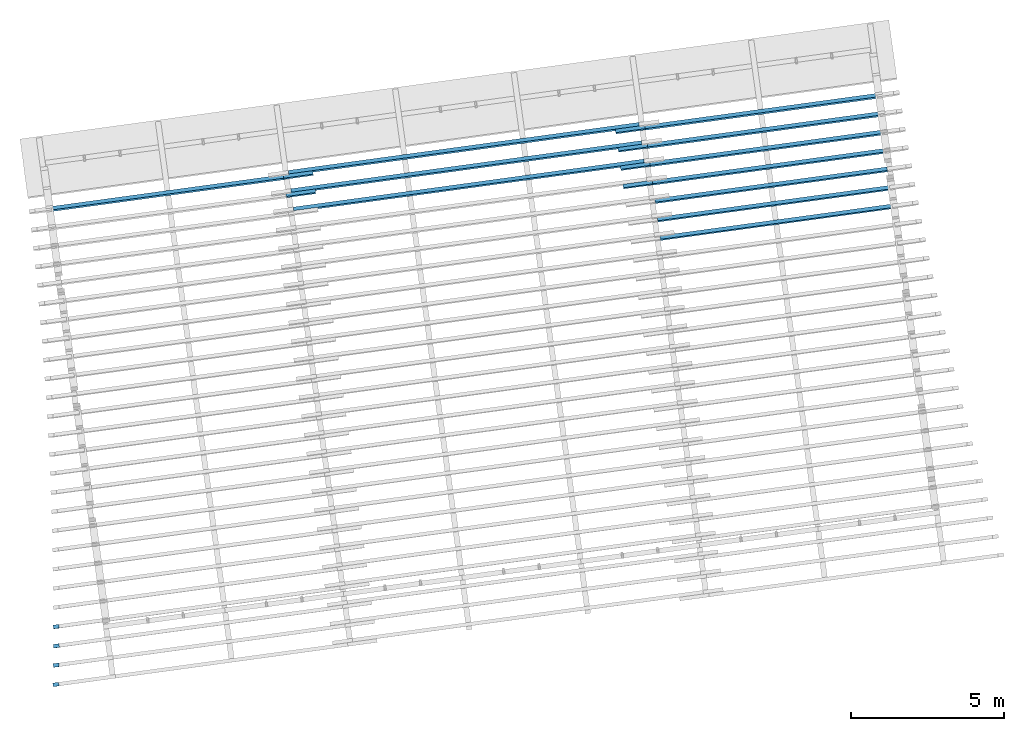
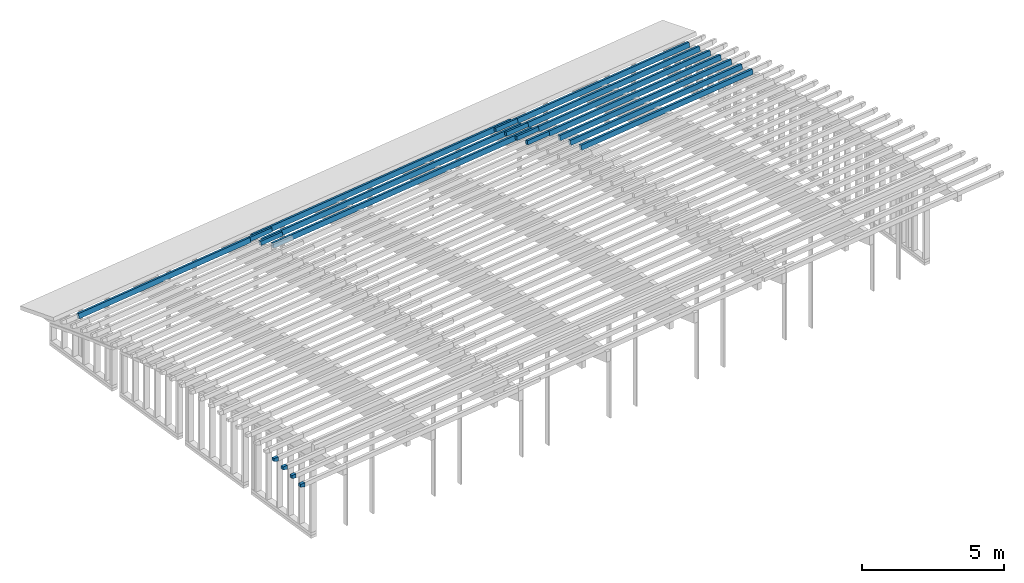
# One storey, part 13 of 18: 21 building element parts, 16 elements without a shape of their own.
"""IFC2X3 building model written with IfcOpenShell, lengths in metres."""

from ifc_helpers import new_model, entity, si_unit, converted_unit, derived_unit, money_unit, direction, frame, origin_with_axes, place, context, subcontext, project, spatial, faceted_brep, material, type_object, element, aggregate, save


model = new_model("IFC2X3")

# Units and contexts
model_context = context("Model", 3, precision=1e-05, world=origin_with_axes(), true_north=direction((0.0, 1.0)))
body_context = subcontext(model_context, "Body", "Model", "MODEL_VIEW")
ifc_project = project(units=[si_unit("LENGTHUNIT", "METRE"), si_unit("AREAUNIT", "SQUARE_METRE"), si_unit("VOLUMEUNIT", "CUBIC_METRE"), converted_unit("PLANEANGLEUNIT", "DEGREE", entity("IfcPlaneAngleMeasure", 0.0174532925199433), si_unit("PLANEANGLEUNIT", "RADIAN"), dimensions=[0, 0, 0, 0, 0, 0, 0]), money_unit("EUR"), converted_unit("TIMEUNIT", "Year", entity("IfcTimeMeasure", 31557600.0), si_unit("TIMEUNIT", "SECOND"), dimensions=[0, 0, 1, 0, 0, 0, 0]), si_unit("MASSUNIT", "GRAM", prefix="KILO"), si_unit("THERMODYNAMICTEMPERATUREUNIT", "DEGREE_CELSIUS"), si_unit("LUMINOUSINTENSITYUNIT", "LUMEN"), si_unit("ENERGYUNIT", "JOULE", prefix="MEGA"), derived_unit("THERMALCONDUCTANCEUNIT", [(si_unit("POWERUNIT", "WATT"), 1), (si_unit("LENGTHUNIT", "METRE"), -1), (si_unit("THERMODYNAMICTEMPERATUREUNIT", "KELVIN"), -1)]), derived_unit("SPECIFICHEATCAPACITYUNIT", [(si_unit("ENERGYUNIT", "JOULE"), 1), (si_unit("MASSUNIT", "GRAM", prefix="KILO"), -1), (si_unit("THERMODYNAMICTEMPERATUREUNIT", "KELVIN"), -1)]), derived_unit("MASSDENSITYUNIT", [(si_unit("MASSUNIT", "GRAM", prefix="KILO"), 1), (si_unit("VOLUMEUNIT", "CUBIC_METRE"), -1)])], contexts=[model_context])

# Site, building, storey
site_placement = place(None, origin_with_axes())
site = spatial("IfcSite", under=ifc_project, at=site_placement, Name="Gelände", CompositionType="ELEMENT")
building_placement = place(site_placement, origin_with_axes())
building = spatial("IfcBuilding", under=site, at=building_placement, Name="Gebäude", CompositionType="ELEMENT")
storey_placement = place(building_placement, frame((0.0, 0.0, 5.5), z_axis=(0.0, 0.0, 1.0), x_axis=(1.0, 0.0, 0.0)))
storey = spatial("IfcBuildingStorey", under=building, at=storey_placement, Name="OG", CompositionType="ELEMENT", Elevation=5.5)

# Beam, building element part
beam_type_1 = type_object("IfcBeamType", Name="Verschiedene Strukturen - 4 Segmente - 120 x 200 x 9378 (970+7659+559+190)", PredefinedType="NOTDEFINED")
beam_1_placement = place(storey_placement, frame((93.40531435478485, -136.7346083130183, 3.04127648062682), z_axis=(0.0, 0.0, 1.0), x_axis=(-0.1357111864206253, 0.9907484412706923, 0.0)))
beam_1 = element("IfcBeam", 1, at=beam_1_placement, inside=storey, type_object=beam_type_1, Name="Unterzug-031")
ifc_material = material(Name="Bauholz")
building_element_part_1_placement = place(beam_1_placement, origin_with_axes())
building_element_part_1 = element("IfcBuildingElementPart", 2, at=building_element_part_1_placement, material=ifc_material, Name="Bauholz", context=body_context, shape_type="Brep", body=[
    faceted_brep([(0.05806055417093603, 0.0, -0.01513182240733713), (0.05806055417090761, 0.9699999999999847, -0.01513182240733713), (-0.05806055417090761, 0.9699999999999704, 0.01513182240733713), (-0.05806055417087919, 0.0, 0.01513182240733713), (0.01770902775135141, 0.0, -0.1699599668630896), (0.01770902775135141, 0.9699999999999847, -0.1699599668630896), (-0.0984120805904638, 0.9699999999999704, -0.1396963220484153), (-0.0984120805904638, 0.0, -0.1396963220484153)], [[[0, 1, 2, 3]], [[4, 5, 1, 0]], [[2, 1, 5, 6]], [[3, 2, 6, 7]], [[4, 0, 3, 7]], [[7, 6, 5, 4]]]),
])
aggregate(beam_1, [building_element_part_1])

# Beam, building element parts
beam_type_2 = type_object("IfcBeamType", Name="Verschiedene Strukturen - 4 Segmente - 120 x 200 x 9364 (970+7659+545+190)", PredefinedType="NOTDEFINED")
beam_2_placement = place(storey_placement, frame((93.32324404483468, -136.1354607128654, 2.882507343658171), z_axis=(0.0, 0.0, 1.0), x_axis=(-0.1357111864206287, 0.9907484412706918, 0.0)))
beam_2 = element("IfcBeam", 3, at=beam_2_placement, inside=storey, type_object=beam_type_2, Name="Unterzug-031")
building_element_part_2_placement = place(beam_2_placement, origin_with_axes())
building_element_part_2 = element("IfcBuildingElementPart", 4, at=building_element_part_2_placement, material=ifc_material, Name="Bauholz", context=body_context, shape_type="Brep", body=[
    faceted_brep([(0.05789720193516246, 0.0, -0.01574528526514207), (0.05789720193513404, 0.9699999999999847, -0.01574528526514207), (-0.05789720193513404, 0.9699999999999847, 0.01574528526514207), (-0.05789720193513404, 0.0, 0.01574528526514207), (0.01590977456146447, 0.0, -0.1701378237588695), (0.01590977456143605, 0.9699999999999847, -0.1701378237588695), (-0.09988462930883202, 0.9699999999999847, -0.1386472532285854), (-0.09988462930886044, 0.0, -0.1386472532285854)], [[[0, 1, 2, 3]], [[4, 5, 1, 0]], [[2, 1, 5, 6]], [[3, 2, 6, 7]], [[4, 0, 3, 7]], [[7, 6, 5, 4]]]),
])
building_element_part_3_placement = place(beam_2_placement, origin_with_axes())
building_element_part_3 = element("IfcBuildingElementPart", 5, at=building_element_part_3_placement, material=ifc_material, Name="Bauholz", context=body_context, shape_type="Brep", body=[
    faceted_brep([(-0.09988659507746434, 4.732803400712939, -0.1386544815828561), (-0.0998865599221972, 4.852803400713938, -0.1386543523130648), (-0.057896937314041, 4.852803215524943, 0.01574528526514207), (-0.05789720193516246, 8.629105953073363, 0.01574528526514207), (-0.1103814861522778, 8.629105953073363, -0.1772453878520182), (-0.1103814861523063, 0.9700000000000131, -0.1772453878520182), (-0.05789720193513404, 0.9699999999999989, 0.01574528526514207), (-0.05789746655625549, 4.732803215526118, 0.01574528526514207), (-0.09974600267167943, 4.852803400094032, -0.1386911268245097), (-0.09974653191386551, 4.732803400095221, -0.1386911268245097), (0.05789720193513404, 0.9700000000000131, -0.01574528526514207), (0.05789693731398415, 4.732805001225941, -0.01574528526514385), (0.05789746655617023, 4.852805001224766, -0.01574528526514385), (0.05789720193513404, 8.62910595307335, -0.01574528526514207), (0.005412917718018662, 8.629105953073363, -0.2087359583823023), (0.005412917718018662, 0.9699999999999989, -0.2087359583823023), (0.01590978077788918, 4.852805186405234, -0.1701378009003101), (0.01590974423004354, 4.732805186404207, -0.1701379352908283), (0.01571097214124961, 4.732805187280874, -0.1700837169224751), (0.01571150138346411, 4.852805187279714, -0.1700837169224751)], [[[0, 1, 2, 3, 4, 5, 6, 7]], [[8, 1, 0, 9]], [[8, 2, 1]], [[3, 2, 7, 6, 10, 11, 12, 13]], [[14, 4, 3, 13]], [[14, 15, 5, 4]], [[6, 5, 15, 10]], [[9, 0, 7]], [[7, 2, 8, 9]], [[10, 15, 14, 13, 12, 16, 17, 11]], [[12, 11, 18, 19]], [[19, 16, 12]], [[17, 16, 19, 18]], [[18, 11, 17]]]),
])
aggregate(beam_2, [building_element_part_2, building_element_part_3])

# Beam, building element part
beam_type_3 = type_object("IfcBeamType", Name="Verschiedene Strukturen - 4 Segmente - 120 x 200 x 10509 (970+7659+1690+190)", PredefinedType="NOTDEFINED")
beam_3_placement = place(storey_placement, frame((95.24989773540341, -150.2008387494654, 4.960992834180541), z_axis=(0.0, 0.0, 1.0), x_axis=(-0.1357111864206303, 0.9907484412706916, 0.0)))
beam_3 = element("IfcBeam", 6, at=beam_3_placement, inside=storey, type_object=beam_type_3, Name="Unterzug-031")
building_element_part_4_placement = place(beam_3_placement, origin_with_axes())
building_element_part_4 = element("IfcBuildingElementPart", 7, at=building_element_part_4_placement, material=ifc_material, Name="Bauholz", context=body_context, shape_type="Brep", body=[
    faceted_brep([(-0.05997481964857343, 10.50900000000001, 0.001738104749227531), (-0.05997481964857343, 10.31900000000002, 0.001738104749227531), (0.05997481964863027, 10.31900000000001, -0.001738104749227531), (0.05997481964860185, 10.50900000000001, -0.001738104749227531), (-0.06345102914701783, 10.509, -0.1182115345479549), (-0.06518913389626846, 10.31900000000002, -0.1781863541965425), (0.05476050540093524, 10.31900000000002, -0.1816625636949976), (0.05649861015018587, 10.50900000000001, -0.1216877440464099)], [[[0, 1, 2, 3]], [[4, 5, 1, 0]], [[5, 6, 2, 1]], [[3, 2, 6, 7]], [[4, 0, 3, 7]], [[7, 6, 5, 4]]]),
])
aggregate(beam_3, [building_element_part_4])

beam_type_4 = type_object("IfcBeamType", Name="Verschiedene Strukturen - 4 Segmente - 120 x 200 x 10600 (970+7659+1781+190)", PredefinedType="NOTDEFINED")
beam_4_placement = place(storey_placement, frame((95.33472849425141, -150.8201387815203, 4.975930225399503), z_axis=(0.0, 0.0, 1.0), x_axis=(-0.1357111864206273, 0.990748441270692, 0.0)))
beam_4 = element("IfcBeam", 8, at=beam_4_placement, inside=storey, type_object=beam_type_4, Name="Unterzug-031")
building_element_part_5_placement = place(beam_4_placement, origin_with_axes())
building_element_part_5 = element("IfcBuildingElementPart", 9, at=building_element_part_5_placement, material=ifc_material, Name="Bauholz", context=body_context, shape_type="Brep", body=[
    faceted_brep([(-0.05999011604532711, 10.59999999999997, 0.001089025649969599), (-0.05999011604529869, 10.40999999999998, 0.001089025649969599), (0.05999011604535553, 10.40999999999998, -0.001089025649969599), (0.05999011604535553, 10.59999999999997, -0.001089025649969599), (-0.06216816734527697, 10.59999999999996, -0.1188912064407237), (-0.0632571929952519, 10.40999999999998, -0.1788813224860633), (0.05672303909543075, 10.40999999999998, -0.1810593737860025), (0.05781206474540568, 10.59999999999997, -0.1210692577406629)], [[[0, 1, 2, 3]], [[4, 5, 1, 0]], [[5, 6, 2, 1]], [[3, 2, 6, 7]], [[4, 0, 3, 7]], [[7, 6, 5, 4]]]),
])
aggregate(beam_4, [building_element_part_5])

beam_type_5 = type_object("IfcBeamType", Name="Verschiedene Strukturen - 4 Segmente - 120 x 200 x 10694 (970+7659+1875+190)", PredefinedType="NOTDEFINED")
beam_5_placement = place(storey_placement, frame((95.419430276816, -151.4384972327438, 4.984403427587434), z_axis=(0.0, 0.0, 1.0), x_axis=(-0.1357111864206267, 0.9907484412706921, 0.0)))
beam_5 = element("IfcBeam", 10, at=beam_5_placement, inside=storey, type_object=beam_type_5, Name="Unterzug-031")
building_element_part_6_placement = place(beam_5_placement, origin_with_axes())
building_element_part_6 = element("IfcBuildingElementPart", 11, at=building_element_part_6_placement, material=ifc_material, Name="Bauholz", context=body_context, shape_type="Brep", body=[
    faceted_brep([(-0.05999703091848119, 10.69400000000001, 0.0005968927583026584), (-0.05999703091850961, 10.504, 0.0005968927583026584), (0.05999703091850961, 10.50399999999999, -0.0005968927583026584), (0.05999703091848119, 10.69400000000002, -0.0005968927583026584), (-0.06119081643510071, 10.694, -0.1193971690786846), (-0.06178770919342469, 10.50399999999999, -0.1793941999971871), (0.05820635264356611, 10.50399999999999, -0.1805879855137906), (0.05880324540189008, 10.69400000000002, -0.1205909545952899)], [[[0, 1, 2, 3]], [[4, 5, 1, 0]], [[5, 6, 2, 1]], [[3, 2, 6, 7]], [[4, 0, 3, 7]], [[7, 6, 5, 4]]]),
])
aggregate(beam_5, [building_element_part_6])

beam_type_6 = type_object("IfcBeamType", Name="Verschiedene Strukturen - 3 Segmente - 120 x 200 x 12890 (660+11570+660)", PredefinedType="NOTDEFINED")
beam_6_placement = place(storey_placement, frame((91.86899275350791, -136.217618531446, 2.851585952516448), z_axis=(0.0, 0.0, 1.0), x_axis=(0.1357111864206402, -0.9907484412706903, 0.0)))
beam_6 = element("IfcBeam", 12, at=beam_6_placement, inside=storey, type_object=beam_type_6, Name="Unterzug-031")
building_element_part_7_placement = place(beam_6_placement, origin_with_axes())
building_element_part_7 = element("IfcBuildingElementPart", 13, at=building_element_part_7_placement, material=ifc_material, Name="Bauholz", context=body_context, shape_type="Brep", body=[
    faceted_brep([(0.1103814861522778, 12.22957971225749, -0.1772453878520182), (0.1103814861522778, 0.660000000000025, -0.1772453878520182), (-0.00541291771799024, 0.6600000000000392, -0.2087359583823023), (-0.00541291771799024, 12.2295797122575, -0.2087359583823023), (0.05789720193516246, 12.2295797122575, 0.01574528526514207), (0.05789720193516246, 0.6600000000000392, 0.01574528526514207), (-0.05789720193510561, 0.660000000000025, -0.01574528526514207), (-0.05789720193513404, 12.2295797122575, -0.01574528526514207)], [[[0, 1, 2, 3]], [[4, 5, 1, 0]], [[1, 5, 6, 2]], [[3, 2, 6, 7]], [[7, 4, 0, 3]], [[7, 6, 5, 4]]]),
])
aggregate(beam_6, [building_element_part_7])

beam_7_placement = place(storey_placement, frame((91.9510223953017, -136.816469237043, 3.011503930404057), z_axis=(0.0, 0.0, 1.0), x_axis=(0.1357111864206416, -0.9907484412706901, 0.0)))
beam_7 = element("IfcBeam", 14, at=beam_7_placement, inside=storey, type_object=beam_type_6, Name="Unterzug-031")
building_element_part_8_placement = place(beam_7_placement, origin_with_axes())
building_element_part_8 = element("IfcBuildingElementPart", 15, at=building_element_part_8_placement, material=ifc_material, Name="Bauholz", context=body_context, shape_type="Brep", body=[
    faceted_brep([(0.1084999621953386, 12.22957971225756, -0.1784033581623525), (0.1084999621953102, 0.6600000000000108, -0.1784033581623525), (-0.007621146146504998, 0.660000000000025, -0.2086670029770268), (-0.007621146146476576, 12.22957971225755, -0.2086670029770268), (0.05806055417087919, 12.22957971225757, 0.01513182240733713), (0.05806055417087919, 0.6600000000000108, 0.01513182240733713), (-0.05806055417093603, 0.660000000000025, -0.01513182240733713), (-0.05806055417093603, 12.22957971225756, -0.01513182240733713)], [[[0, 1, 2, 3]], [[4, 5, 1, 0]], [[1, 5, 6, 2]], [[3, 2, 6, 7]], [[7, 4, 0, 3]], [[7, 6, 5, 4]]]),
])
aggregate(beam_7, [building_element_part_8])

beam_8_placement = place(storey_placement, frame((92.03326752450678, -137.4168930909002, 3.165295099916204), z_axis=(0.0, 0.0, 1.0), x_axis=(0.1357111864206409, -0.9907484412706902, 0.0)))
beam_8 = element("IfcBeam", 16, at=beam_8_placement, inside=storey, type_object=beam_type_6, Name="Unterzug-031")
building_element_part_9_placement = place(beam_8_placement, origin_with_axes())
building_element_part_9 = element("IfcBuildingElementPart", 17, at=building_element_part_9_placement, material=ifc_material, Name="Bauholz", context=body_context, shape_type="Brep", body=[
    faceted_brep([(0.1066053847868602, 12.22957971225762, -0.1795418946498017), (0.1066053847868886, 0.6600000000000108, -0.1795418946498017), (-0.009829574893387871, 0.6599999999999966, -0.2085746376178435), (-0.009829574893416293, 12.2295797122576, -0.2085746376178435), (0.05821747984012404, 12.2295797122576, 0.01451637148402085), (0.05821747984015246, 0.6600000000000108, 0.01451637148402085), (-0.05821747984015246, 0.6599999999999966, -0.01451637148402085), (-0.05821747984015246, 12.2295797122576, -0.01451637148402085)], [[[0, 1, 2, 3]], [[4, 5, 1, 0]], [[1, 5, 6, 2]], [[3, 2, 6, 7]], [[7, 4, 0, 3]], [[7, 6, 5, 4]]]),
])
aggregate(beam_8, [building_element_part_9])

beam_type_7 = type_object("IfcBeamType", Name="Verschiedene Strukturen - 4 Segmente - 120 x 200 x 10426 (970+7659+1607+190)", PredefinedType="NOTDEFINED")
beam_9_placement = place(storey_placement, frame((95.1650979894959, -149.5817651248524, 4.939661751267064), z_axis=(0.0, 0.0, 1.0), x_axis=(-0.1357111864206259, 0.9907484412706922, 0.0)))
beam_9 = element("IfcBeam", 18, at=beam_9_placement, inside=storey, type_object=beam_type_7, Name="Unterzug-031")
building_element_part_10_placement = place(beam_9_placement, origin_with_axes())
building_element_part_10 = element("IfcBuildingElementPart", 19, at=building_element_part_10_placement, material=ifc_material, Name="Bauholz", context=body_context, shape_type="Brep", body=[
    faceted_brep([(-0.05995537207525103, 10.42626930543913, 0.002313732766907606), (-0.05995537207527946, 10.23626930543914, 0.002313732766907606), (0.05995537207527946, 10.23626930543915, -0.002313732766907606), (0.05995537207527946, 10.42626930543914, -0.002313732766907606), (-0.06458283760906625, 10.42626930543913, -0.1175970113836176), (-0.06689657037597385, 10.23626930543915, -0.1775523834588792), (0.05301417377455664, 10.23626930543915, -0.1821798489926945), (0.05532790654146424, 10.42626930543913, -0.1222244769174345)], [[[0, 1, 2, 3]], [[4, 5, 1, 0]], [[5, 6, 2, 1]], [[3, 2, 6, 7]], [[4, 0, 3, 7]], [[7, 6, 5, 4]]]),
])
aggregate(beam_9, [building_element_part_10])

beam_type_8 = type_object("IfcBeamType", Name="Verschiedene Strukturen - 4 Segmente - 120 x 200 x 9492 (970+7659+673+190)", PredefinedType="NOTDEFINED")
beam_10_placement = place(storey_placement, frame((103.7120060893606, -138.3973520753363, 3.742971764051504), z_axis=(0.0, 0.0, 1.0), x_axis=(0.135711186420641, -0.9907484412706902, 0.0)))
beam_10 = element("IfcBeam", 20, at=beam_10_placement, inside=storey, type_object=beam_type_8, Name="Unterzug-031")
building_element_part_11_placement = place(beam_10_placement, origin_with_axes())
building_element_part_11 = element("IfcBuildingElementPart", 21, at=building_element_part_11_placement, material=ifc_material, Name="Bauholz", context=body_context, shape_type="Brep", body=[
    faceted_brep([(-0.01864872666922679, 8.629193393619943, -0.2079716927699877), (-0.01864872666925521, 0.9699999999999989, -0.2079716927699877), (-0.05877861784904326, 0.9699999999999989, -0.01204467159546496), (-0.05877998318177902, 4.732937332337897, -0.01203929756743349), (-0.02667467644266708, 4.732937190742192, -0.1687864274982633), (-0.02667465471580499, 4.852937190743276, -0.1687865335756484), (-0.05877945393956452, 4.852937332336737, -0.01203929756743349), (-0.0587797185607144, 8.629193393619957, -0.01203929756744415), (0.09891071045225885, 8.629193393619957, -0.1838930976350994), (0.09891071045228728, 0.9700000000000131, -0.1838930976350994), (0.05877971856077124, 0.9700000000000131, 0.01203929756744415), (0.05877998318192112, 4.852939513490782, 0.01203929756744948), (0.05877971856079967, 8.629193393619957, 0.01203929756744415), (0.05877945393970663, 4.732939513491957, 0.01203929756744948), (-0.02617685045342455, 4.732937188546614, -0.1686823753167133), (-0.02617632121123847, 4.852937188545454, -0.1686823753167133), (0.09088517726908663, 4.852939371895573, -0.1447098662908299), (0.09088515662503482, 4.732939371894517, -0.1447097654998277), (0.09068224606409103, 4.852939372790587, -0.144750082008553), (0.09068171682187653, 4.732939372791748, -0.144750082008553)], [[[0, 1, 2, 3, 4, 5, 6, 7]], [[1, 0, 8, 9]], [[2, 1, 9, 10]], [[11, 12, 7, 6, 3, 2, 10, 13]], [[4, 3, 14]], [[4, 14, 15, 5]], [[6, 5, 15]], [[8, 0, 7, 12]], [[10, 9, 8, 12, 11, 16, 17, 13]], [[6, 15, 14, 3]], [[18, 11, 13, 19]], [[16, 11, 18]], [[18, 19, 17, 16]], [[13, 17, 19]]]),
])
aggregate(beam_10, [building_element_part_11])

beam_type_9 = type_object("IfcBeamType", Name="Verschiedene Strukturen - 4 Segmente - 120 x 200 x 9437 (970+7659+617+190)", PredefinedType="NOTDEFINED")
beam_11_placement = place(storey_placement, frame((103.5460778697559, -137.1860066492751, 3.480744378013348), z_axis=(0.0, 0.0, 1.0), x_axis=(0.1357111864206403, -0.9907484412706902, 0.0)))
beam_11 = element("IfcBeam", 22, at=beam_11_placement, inside=storey, type_object=beam_type_9, Name="Unterzug-031")
building_element_part_12_placement = place(beam_11_placement, origin_with_axes())
building_element_part_12 = element("IfcBuildingElementPart", 23, at=building_element_part_12_placement, material=ifc_material, Name="Bauholz", context=body_context, shape_type="Brep", body=[
    faceted_brep([(-0.01424225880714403, 8.629193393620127, -0.2083198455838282), (-0.01424225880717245, 0.9700000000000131, -0.2083198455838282), (-0.05851170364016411, 0.9700000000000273, -0.01328083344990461), (-0.05851196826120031, 4.732937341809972, -0.01328083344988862), (-0.02309603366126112, 4.732937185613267, -0.1693125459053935), (-0.02309600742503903, 4.852937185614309, -0.1693126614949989), (-0.05851143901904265, 4.852937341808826, -0.01328083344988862), (-0.05851170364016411, 8.629193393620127, -0.01328083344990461), (0.1027811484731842, 8.629193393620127, -0.1817581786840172), (0.1027811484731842, 0.9700000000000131, -0.1817581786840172), (0.05851170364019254, 0.9700000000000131, 0.01328083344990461), (0.05851196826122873, 4.852939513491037, 0.01328083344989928), (0.05851170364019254, 8.629193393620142, 0.01328083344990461), (0.05851143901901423, 4.732939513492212, 0.01328083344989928), (-0.02280931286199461, 4.732937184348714, -0.1692466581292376), (-0.02280878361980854, 4.852937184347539, -0.1692466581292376), (0.09392822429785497, 4.852939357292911, -0.142754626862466), (0.09392819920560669, 4.732939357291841, -0.1427545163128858), (0.09357829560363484, 4.85293935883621, -0.142831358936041), (0.09357776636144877, 4.73293935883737, -0.142831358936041)], [[[0, 1, 2, 3, 4, 5, 6, 7]], [[1, 0, 8, 9]], [[2, 1, 9, 10]], [[11, 12, 7, 6, 3, 2, 10, 13]], [[4, 3, 14]], [[4, 14, 15, 5]], [[6, 5, 15]], [[8, 0, 7, 12]], [[10, 9, 8, 12, 11, 16, 17, 13]], [[6, 15, 14, 3]], [[18, 11, 13, 19]], [[16, 11, 18]], [[18, 19, 17, 16]], [[13, 17, 19]]]),
])
aggregate(beam_11, [building_element_part_12])

# Beam, building element parts
beam_type_10 = type_object("IfcBeamType", Name="Verschiedene Strukturen - 4 Segmente - 120 x 200 x 9414 (970+7659+595+190)", PredefinedType="NOTDEFINED")
beam_12_placement = place(storey_placement, frame((103.4633910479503, -136.5823582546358, 3.340410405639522), z_axis=(0.0, 0.0, 1.0), x_axis=(0.1357111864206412, -0.9907484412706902, 0.0)))
beam_12 = element("IfcBeam", 24, at=beam_12_placement, inside=storey, type_object=beam_type_10, Name="Unterzug-031")
building_element_part_13_placement = place(beam_12_placement, origin_with_axes())
building_element_part_13 = element("IfcBuildingElementPart", 25, at=building_element_part_13_placement, material=ifc_material, Name="Bauholz", context=body_context, shape_type="Brep", body=[
    faceted_brep([(-0.01203633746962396, 8.629210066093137, -0.2084589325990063), (-0.01203633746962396, 0.9699999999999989, -0.2084589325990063), (-0.05836784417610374, 0.9699999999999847, -0.01389945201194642), (-0.0583681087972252, 4.732937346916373, -0.01389945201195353), (-0.02130257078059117, 4.732937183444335, -0.1695473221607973), (-0.02130254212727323, 4.852937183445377, -0.1695474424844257), (-0.05836757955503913, 4.852937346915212, -0.01389945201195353), (-0.05836784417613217, 8.629210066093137, -0.01389945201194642), (0.104699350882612, 8.629210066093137, -0.1806600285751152), (0.104699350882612, 0.9699999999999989, -0.1806600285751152), (0.05836784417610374, 0.9699999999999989, 0.01389945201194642), (0.0583681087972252, 4.852939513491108, 0.01389945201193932), (0.05836784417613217, 8.629210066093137, 0.01389945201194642), (0.05836757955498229, 4.732939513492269, 0.01389945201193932), (-0.02110557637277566, 4.732937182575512, -0.1694999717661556), (-0.02110504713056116, 4.852937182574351, -0.1694999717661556), (0.09543422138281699, 4.852939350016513, -0.1417530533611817), (0.09543419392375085, 4.732939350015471, -0.1417529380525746), (0.09499589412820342, 4.852939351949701, -0.141853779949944), (0.09499536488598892, 4.732939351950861, -0.141853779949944)], [[[0, 1, 2, 3, 4, 5, 6, 7]], [[1, 0, 8, 9]], [[2, 1, 9, 10]], [[11, 12, 7, 6, 3, 2, 10, 13]], [[4, 3, 14]], [[4, 14, 15, 5]], [[6, 5, 15]], [[8, 0, 7, 12]], [[10, 9, 8, 12, 11, 16, 17, 13]], [[6, 15, 14, 3]], [[18, 11, 13, 19]], [[16, 11, 18]], [[18, 19, 17, 16]], [[13, 17, 19]]]),
])
building_element_part_14_placement = place(beam_12_placement, origin_with_axes())
building_element_part_14 = element("IfcBuildingElementPart", 26, at=building_element_part_14_placement, material=ifc_material, Name="Bauholz", context=body_context, shape_type="Brep", body=[
    faceted_brep([(0.09543304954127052, 0.0, -0.1417481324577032), (-0.02130263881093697, 0.0, -0.1695470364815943), (-0.02130263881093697, 0.9699999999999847, -0.1695470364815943), (0.09543304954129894, 0.9699999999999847, -0.1417481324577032), (0.05836784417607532, 0.0, 0.01389945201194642), (-0.05836784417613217, 0.0, -0.01389945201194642), (-0.05836784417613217, 0.9699999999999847, -0.01389945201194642), (0.05836784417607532, 0.9699999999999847, 0.01389945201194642)], [[[0, 1, 2, 3]], [[4, 5, 1, 0]], [[1, 5, 6, 2]], [[7, 3, 2, 6]], [[4, 0, 3, 7]], [[5, 4, 7, 6]]]),
])
aggregate(beam_12, [building_element_part_13, building_element_part_14])

beam_type_11 = type_object("IfcBeamType", Name="Verschiedene Strukturen - 4 Segmente - 120 x 200 x 9394 (970+7659+575+190)", PredefinedType="NOTDEFINED")
beam_13_placement = place(storey_placement, frame((103.3809012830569, -135.9801484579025, 3.193916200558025), z_axis=(0.0, 0.0, 1.0), x_axis=(0.1357111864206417, -0.9907484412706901, 0.0)))
beam_13 = element("IfcBeam", 27, at=beam_13_placement, inside=storey, type_object=beam_type_11, Name="Unterzug-031")
building_element_part_15_placement = place(beam_13_placement, origin_with_axes())
building_element_part_15 = element("IfcBuildingElementPart", 28, at=building_element_part_15_placement, material=ifc_material, Name="Bauholz", context=body_context, shape_type="Brep", body=[
    faceted_brep([(0.0969278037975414, 0.0, -0.1407302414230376), (-0.01950715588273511, 0.0, -0.1697629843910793), (-0.01950715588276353, 0.9699999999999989, -0.1697629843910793), (0.09692780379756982, 0.9699999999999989, -0.1407302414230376), (0.05821747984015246, 0.0, 0.01451637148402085), (-0.05821747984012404, 0.0, -0.01451637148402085), (-0.05821747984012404, 0.9699999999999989, -0.01451637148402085), (0.05821747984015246, 0.9699999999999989, 0.01451637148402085)], [[[0, 1, 2, 3]], [[4, 5, 1, 0]], [[1, 5, 6, 2]], [[7, 3, 2, 6]], [[4, 0, 3, 7]], [[5, 4, 7, 6]]]),
])
building_element_part_16_placement = place(beam_13_placement, origin_with_axes())
building_element_part_16 = element("IfcBuildingElementPart", 29, at=building_element_part_16_placement, material=ifc_material, Name="Bauholz", context=body_context, shape_type="Brep", body=[
    faceted_brep([(-0.00982957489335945, 8.62921006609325, -0.2085746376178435), (-0.00982957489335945, 0.9699999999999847, -0.2085746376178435), (-0.05821747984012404, 0.9699999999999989, -0.01451637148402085), (-0.0582177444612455, 4.732937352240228, -0.01451637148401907), (-0.01950712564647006, 4.732937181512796, -0.1697631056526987), (-0.01950709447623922, 4.852937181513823, -0.1697632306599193), (-0.05821721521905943, 4.852937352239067, -0.01451637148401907), (-0.05821747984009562, 8.62921006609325, -0.01451637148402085), (0.1066053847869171, 8.62921006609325, -0.1795418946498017), (0.1066053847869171, 0.9699999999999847, -0.1795418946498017), (0.05821747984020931, 0.9699999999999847, 0.01451637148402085), (0.05821747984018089, 4.792939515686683, 0.01451637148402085), (0.05821747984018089, 8.62921006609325, 0.01451637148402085), (0.05821721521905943, 4.732939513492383, 0.01451637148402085), (-0.01918661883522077, 4.732937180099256, -0.1696826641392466), (-0.01918608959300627, 4.852937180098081, -0.1696826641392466), (0.09685333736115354, 4.852939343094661, -0.1407541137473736), (0.09685280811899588, 4.732939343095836, -0.1407541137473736), (0.05834445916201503, 4.852939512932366, 0.01400712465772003)], [[[0, 1, 2, 3, 4, 5, 6, 7]], [[0, 8, 9, 1]], [[10, 2, 1, 9]], [[11, 12, 7, 6, 3, 2, 10, 13]], [[4, 3, 14]], [[4, 14, 15, 5]], [[6, 5, 15]], [[7, 12, 8, 0]], [[16, 9, 8]], [[17, 10, 9]], [[8, 12, 11, 18]], [[6, 15, 14, 3]], [[17, 13, 10]], [[11, 13, 17, 16, 18]], [[16, 17, 9]], [[8, 18, 16]]]),
])
aggregate(beam_13, [building_element_part_15, building_element_part_16])

# Beam, building element part
beam_type_12 = type_object("IfcBeamType", Name="Verschiedene Strukturen - 4 Segmente - 120 x 200 x 9463 (970+7659+644+190)", PredefinedType="NOTDEFINED")
beam_14_placement = place(storey_placement, frame((103.6289532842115, -137.7910318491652, 3.614903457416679), z_axis=(0.0, 0.0, 1.0), x_axis=(0.1357111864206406, -0.9907484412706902, 0.0)))
beam_14 = element("IfcBeam", 30, at=beam_14_placement, inside=storey, type_object=beam_type_12, Name="Unterzug-031")
building_element_part_17_placement = place(beam_14_placement, origin_with_axes())
building_element_part_17 = element("IfcBuildingElementPart", 31, at=building_element_part_17_placement, material=ifc_material, Name="Bauholz", context=body_context, shape_type="Brep", body=[
    faceted_brep([(-0.01644611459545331, 8.629193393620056, -0.2081574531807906), (-0.01644611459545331, 0.9700000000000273, -0.2081574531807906), (-0.05864897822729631, 0.9700000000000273, -0.0126608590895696), (-0.05864924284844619, 4.732937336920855, -0.01266085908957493), (-0.0248865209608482, 4.732937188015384, -0.1690589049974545), (-0.02488649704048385, 4.852937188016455, -0.1690590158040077), (-0.05864871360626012, 4.852937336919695, -0.01266085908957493), (-0.05864897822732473, 8.62919339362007, -0.0126608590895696), (0.1008518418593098, 8.629193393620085, -0.1828357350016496), (0.1008518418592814, 0.9700000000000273, -0.1828357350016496), (0.05864897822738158, 0.9700000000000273, 0.0126608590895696), (0.05864924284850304, 4.852939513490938, 0.0126608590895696), (0.05864897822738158, 8.62919339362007, 0.0126608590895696), (0.05864871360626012, 4.732939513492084, 0.0126608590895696), (-0.02451012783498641, 4.732937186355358, -0.1689763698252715), (-0.02450959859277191, 4.852937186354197, -0.1689763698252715), (0.09241200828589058, 4.852939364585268, -0.1437398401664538), (0.09241198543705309, 4.732939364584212, -0.143739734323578), (0.09218153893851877, 4.852939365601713, -0.1437880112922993), (0.09218100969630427, 4.732939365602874, -0.1437880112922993)], [[[0, 1, 2, 3, 4, 5, 6, 7]], [[1, 0, 8, 9]], [[2, 1, 9, 10]], [[11, 12, 7, 6, 3, 2, 10, 13]], [[4, 3, 14]], [[4, 14, 15, 5]], [[6, 5, 15]], [[8, 0, 7, 12]], [[10, 9, 8, 12, 11, 16, 17, 13]], [[6, 15, 14, 3]], [[18, 11, 13, 19]], [[16, 11, 18]], [[18, 19, 17, 16]], [[13, 17, 19]]]),
])
aggregate(beam_14, [building_element_part_17])

# Beam, building element parts
beam_type_13 = type_object("IfcBeamType", Name="Verschiedene Strukturen - 4 Segmente - 120 x 200 x 9378 (970+7659+558+190)", PredefinedType="NOTDEFINED")
beam_15_placement = place(storey_placement, frame((103.2986170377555, -135.3794390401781, 3.04127648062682), z_axis=(0.0, 0.0, 1.0), x_axis=(0.1357111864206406, -0.9907484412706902, 0.0)))
beam_15 = element("IfcBeam", 32, at=beam_15_placement, inside=storey, type_object=beam_type_13, Name="Unterzug-031")
building_element_part_18_placement = place(beam_15_placement, origin_with_axes())
building_element_part_18 = element("IfcBuildingElementPart", 33, at=building_element_part_18_placement, material=ifc_material, Name="Bauholz", context=body_context, shape_type="Brep", body=[
    faceted_brep([(0.0984120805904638, 0.0, -0.1396963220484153), (-0.01770902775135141, 0.0, -0.1699599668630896), (-0.01770902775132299, 0.9699999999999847, -0.1699599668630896), (0.09841208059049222, 0.9699999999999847, -0.1396963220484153), (0.05806055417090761, 0.0, 0.01513182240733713), (-0.05806055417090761, 0.0, -0.01513182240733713), (-0.05806055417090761, 0.9699999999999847, -0.01513182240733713), (0.05806055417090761, 0.9699999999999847, 0.01513182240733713)], [[[0, 1, 2, 3]], [[4, 5, 1, 0]], [[1, 5, 6, 2]], [[7, 3, 2, 6]], [[4, 0, 3, 7]], [[5, 4, 7, 6]]]),
])
building_element_part_19_placement = place(beam_15_placement, origin_with_axes())
building_element_part_19 = element("IfcBuildingElementPart", 34, at=building_element_part_19_placement, material=ifc_material, Name="Bauholz", context=body_context, shape_type="Brep", body=[
    faceted_brep([(-0.007621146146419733, 8.62921006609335, -0.2086670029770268), (-0.007621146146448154, 0.9699999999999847, -0.2086670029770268), (-0.05806055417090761, 0.9699999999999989, -0.01513182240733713), (-0.05805849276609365, 4.732937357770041, -0.01514071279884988), (-0.0177067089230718, 4.732937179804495, -0.1699688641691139), (-0.0177066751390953, 4.852937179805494, -0.1699689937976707), (-0.05805796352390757, 4.85293735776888, -0.01514071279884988), (-0.05806055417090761, 8.62921006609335, -0.01513182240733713), (0.1084999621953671, 8.629210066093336, -0.1784033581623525), (0.1084999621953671, 0.9699999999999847, -0.1784033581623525), (0.05806055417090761, 0.9699999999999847, 0.01513182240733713), (0.05806055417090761, 4.792939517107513, 0.01513182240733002), (0.05806055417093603, 8.62921006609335, 0.01513182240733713), (0.05806028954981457, 4.732939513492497, 0.01513182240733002), (-0.01747848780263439, 4.732937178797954, -0.1699091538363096), (-0.01747795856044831, 4.852937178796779, -0.1699091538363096), (0.09836425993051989, 4.852939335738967, -0.1397151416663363), (0.0983637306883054, 4.732939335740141, -0.1397151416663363), (0.0582620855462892, 4.852939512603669, 0.01435854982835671)], [[[0, 1, 2, 3, 4, 5, 6, 7]], [[0, 8, 9, 1]], [[10, 2, 1, 9]], [[11, 12, 7, 6, 3, 2, 10, 13]], [[4, 3, 14]], [[4, 14, 15, 5]], [[6, 5, 15]], [[7, 12, 8, 0]], [[16, 9, 8]], [[17, 10, 9]], [[8, 12, 11, 18]], [[6, 15, 14, 3]], [[17, 13, 10]], [[11, 13, 17, 16, 18]], [[16, 17, 9]], [[8, 18, 16]]]),
])
aggregate(beam_15, [building_element_part_18, building_element_part_19])

beam_16_placement = place(storey_placement, frame((103.2165467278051, -134.7802914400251, 2.882507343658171), z_axis=(0.0, 0.0, 1.0), x_axis=(0.135711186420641, -0.9907484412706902, 0.0)))
beam_16 = element("IfcBeam", 35, at=beam_16_placement, inside=storey, type_object=beam_type_2, Name="Unterzug-031")
building_element_part_20_placement = place(beam_16_placement, origin_with_axes())
building_element_part_20 = element("IfcBuildingElementPart", 36, at=building_element_part_20_placement, material=ifc_material, Name="Bauholz", context=body_context, shape_type="Brep", body=[
    faceted_brep([(0.09988462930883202, 0.0, -0.1386472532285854), (-0.01590977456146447, 0.0, -0.1701378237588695), (-0.01590977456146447, 0.9700000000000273, -0.1701378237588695), (0.09988462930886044, 0.9700000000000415, -0.1386472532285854), (0.05789720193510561, 0.0, 0.01574528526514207), (-0.05789720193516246, 0.0, -0.01574528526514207), (-0.05789720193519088, 0.9700000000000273, -0.01574528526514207), (0.05789720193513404, 0.9700000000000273, 0.01574528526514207)], [[[0, 1, 2, 3]], [[4, 5, 1, 0]], [[1, 5, 6, 2]], [[7, 3, 2, 6]], [[4, 0, 3, 7]], [[5, 4, 7, 6]]]),
])
building_element_part_21_placement = place(beam_16_placement, origin_with_axes())
building_element_part_21 = element("IfcBuildingElementPart", 37, at=building_element_part_21_placement, material=ifc_material, Name="Bauholz", context=body_context, shape_type="Brep", body=[
    faceted_brep([(0.05789720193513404, 8.62921006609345, 0.01574528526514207), (0.05789746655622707, 4.852939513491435, 0.01574528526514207), (0.09988659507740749, 4.852939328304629, -0.1386544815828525), (0.0998865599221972, 4.732939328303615, -0.138654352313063), (0.05789693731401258, 4.732939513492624, 0.01574528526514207), (0.05789720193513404, 0.9700000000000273, 0.01574528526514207), (0.1103814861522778, 0.9700000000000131, -0.1772453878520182), (0.1103814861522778, 8.629210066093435, -0.1772453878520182), (-0.05789746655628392, 4.73293735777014, -0.0157452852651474), (-0.05789720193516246, 0.9700000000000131, -0.01574528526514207), (-0.05789720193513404, 8.629210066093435, -0.01574528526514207), (-0.05789693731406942, 4.85293735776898, -0.0157452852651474), (0.09974653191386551, 4.852939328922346, -0.1386911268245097), (0.09974600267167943, 4.732939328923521, -0.1386911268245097), (-0.005412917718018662, 0.9700000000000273, -0.2087359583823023), (-0.005412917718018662, 8.62921006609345, -0.2087359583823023), (-0.01590974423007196, 4.8529371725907, -0.1701379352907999), (-0.01590978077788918, 4.7329371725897, -0.1701378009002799), (-0.01571097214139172, 4.852937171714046, -0.1700837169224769), (-0.0157115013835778, 4.732937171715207, -0.1700837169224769)], [[[0, 1, 2, 3, 4, 5, 6, 7]], [[8, 9, 5, 4, 1, 0, 10, 11]], [[2, 1, 12]], [[2, 12, 13, 3]], [[4, 3, 13]], [[9, 14, 6, 5]], [[14, 15, 7, 6]], [[7, 15, 10, 0]], [[16, 11, 10, 15, 14, 9, 8, 17]], [[13, 12, 1, 4]], [[18, 19, 8, 11]], [[11, 16, 18]], [[17, 8, 19]], [[19, 18, 16, 17]]]),
])
aggregate(beam_16, [building_element_part_20, building_element_part_21])

save(model, "model.ifc")
